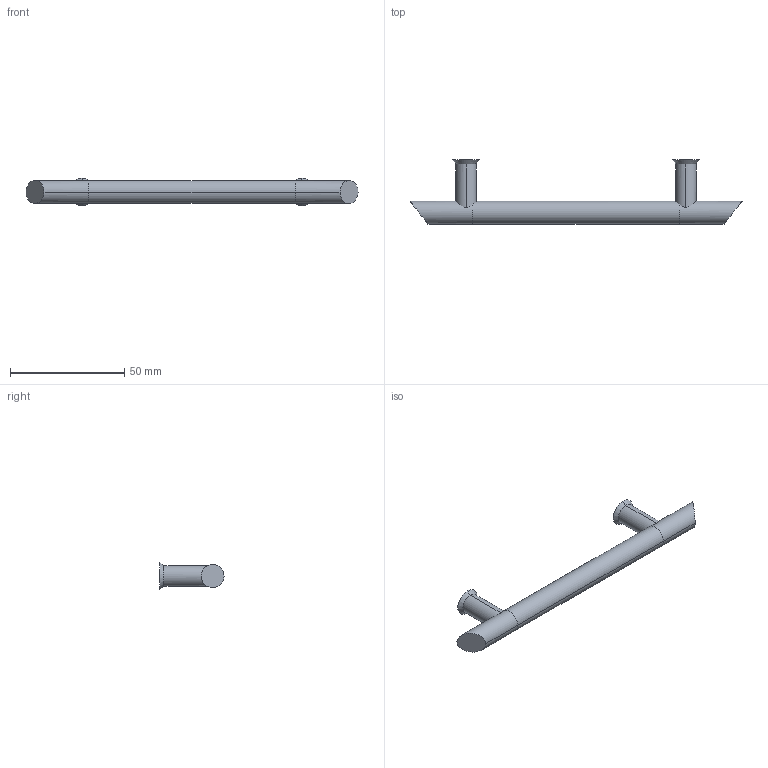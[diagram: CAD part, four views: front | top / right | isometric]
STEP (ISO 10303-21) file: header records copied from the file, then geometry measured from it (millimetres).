
FILE_DESCRIPTION( ( '' ), '1' );
FILE_NAME( 'D:/1.AUTOCAD EXPORT/Group 10/sheet_10_1/9070430.stp', '2013-10-22T03:18:13', ( '' ), ( '' ), ' ', ' ', ' ' );
FILE_SCHEMA( ( 'automotive_design' ) );
Length unit declared in the file: millimetre
Products named in the file (1): 1
Bounding box: 145 x 28 x 11.84 mm (x, y, z)
Volume: 12960.4 mm3; surface area: 5866.2 mm2
Topology: 1 solids, 1 shells, 26 faces, 62 edges, 40 vertices
Faces by surface type: cylinder 14, plane 8, cone 4
Entity records: 1964 total; most frequent: CARTESIAN_POINT 613, DIRECTION 132, STYLED_ITEM 129, PRESENTATION_STYLE_ASSIGNMENT 129, COLOUR_RGB 129, ORIENTED_EDGE 124, EDGE_CURVE 62, CURVE_STYLE 62
